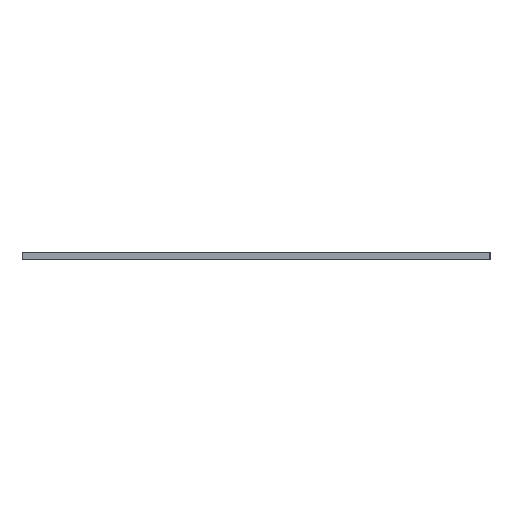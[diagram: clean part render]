
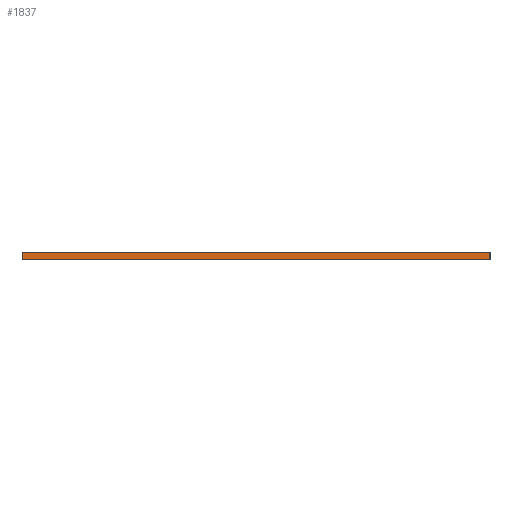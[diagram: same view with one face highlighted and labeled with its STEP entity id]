
A CAD part, left-side view. The second image highlights one B-rep face of the part: STEP entity #1837.
In plain terms, the highlighted planar face has unit normal (-1, 0, 0).
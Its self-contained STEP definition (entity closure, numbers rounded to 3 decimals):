
#1798=CARTESIAN_POINT('Axis2P3D Location',(2.,-92.,2.)) ;
#1803=CARTESIAN_POINT('Line Origine',(2.,-92.,1.)) ;
#1807=CARTESIAN_POINT('Vertex',(2.,-92.,2.)) ;
#1809=CARTESIAN_POINT('Vertex',(2.,-92.,0.)) ;
#1812=CARTESIAN_POINT('Line Origine',(2.,-30.,2.)) ;
#1816=CARTESIAN_POINT('Vertex',(2.,32.,2.)) ;
#1819=CARTESIAN_POINT('Line Origine',(2.,32.,1.)) ;
#1823=CARTESIAN_POINT('Vertex',(2.,32.,0.)) ;
#1826=CARTESIAN_POINT('Line Origine',(2.,-30.,0.)) ;
#1799=DIRECTION('Axis2P3D Direction',(-1.,0.,0.)) ;
#1800=DIRECTION('Axis2P3D XDirection',(0.,1.,0.)) ;
#1804=DIRECTION('Vector Direction',(0.,0.,-1.)) ;
#1813=DIRECTION('Vector Direction',(0.,1.,0.)) ;
#1820=DIRECTION('Vector Direction',(0.,0.,-1.)) ;
#1827=DIRECTION('Vector Direction',(0.,1.,0.)) ;
#1801=AXIS2_PLACEMENT_3D('Plane Axis2P3D',#1798,#1799,#1800) ;
#1832=ORIENTED_EDGE('',*,*,#1811,.F.) ;
#1833=ORIENTED_EDGE('',*,*,#1818,.T.) ;
#1834=ORIENTED_EDGE('',*,*,#1825,.T.) ;
#1835=ORIENTED_EDGE('',*,*,#1830,.F.) ;
#1805=VECTOR('Line Direction',#1804,1.) ;
#1814=VECTOR('Line Direction',#1813,1.) ;
#1821=VECTOR('Line Direction',#1820,1.) ;
#1828=VECTOR('Line Direction',#1827,1.) ;
#1837=ADVANCED_FACE('',(#1836),#1802,.T.) ;
#1811=EDGE_CURVE('',#1808,#1810,#1806,.T.) ;
#1818=EDGE_CURVE('',#1808,#1817,#1815,.T.) ;
#1825=EDGE_CURVE('',#1817,#1824,#1822,.T.) ;
#1830=EDGE_CURVE('',#1810,#1824,#1829,.T.) ;
#1831=EDGE_LOOP('',(#1832,#1833,#1834,#1835)) ;
#1836=FACE_OUTER_BOUND('',#1831,.T.) ;
#1806=LINE('Line',#1803,#1805) ;
#1815=LINE('Line',#1812,#1814) ;
#1822=LINE('Line',#1819,#1821) ;
#1829=LINE('Line',#1826,#1828) ;
#1802=PLANE('Plane',#1801) ;
#1808=VERTEX_POINT('',#1807) ;
#1810=VERTEX_POINT('',#1809) ;
#1817=VERTEX_POINT('',#1816) ;
#1824=VERTEX_POINT('',#1823) ;
